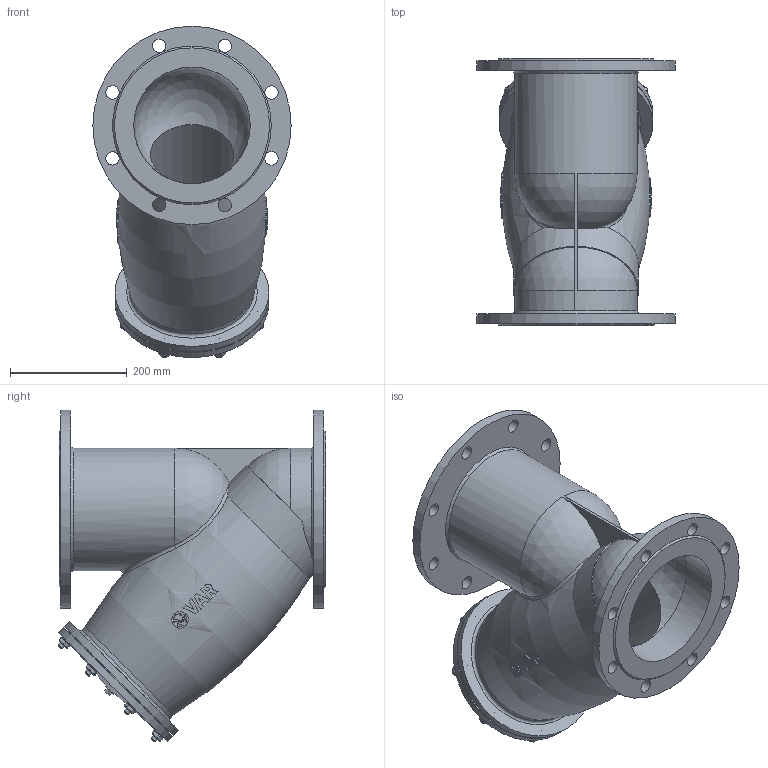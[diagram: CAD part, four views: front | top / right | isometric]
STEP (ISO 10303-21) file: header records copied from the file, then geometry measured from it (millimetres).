
FILE_DESCRIPTION(('STEP AP203'), '1');
FILE_NAME('VAR STRAINER ôèëüòð-ãðÿçåóëîâèòåëü', '', ('UNSPECIFIED'), ('UNSPECIFIED'), 'C3D Converter', 'C3D Toolkit', '');
FILE_SCHEMA(('CONFIG_CONTROL_DESIGN'));
Length unit declared in the file: millimetre
Assembly tree (29 placements, depth 2):
  (unnamed)
    (unnamed)
    (unnamed)
    (unnamed)  x8
    (unnamed)  x8
    (unnamed)  x8
    (unnamed)
    (unnamed)
    (unnamed)
Bounding box: 340 x 458.32 x 568.37 mm (x, y, z)
Volume: 6308509 mm3; surface area: 1909498.7 mm2
Topology: 30 solids, 30 shells, 552 faces, 1346 edges, 875 vertices
Faces by surface type: plane 218, extrusion 134, cylinder 93, cone 60, torus 28, sphere 13, bspline 6
Full cylindrical faces by diameter (mm): 10 x24, 11 x8, 12 x10, 18 x9, 23 x16, 28.42 x1, 200 x5, 204 x3, 210 x1, 214 x1, 218 x1, 220 x2, 264 x2, 340 x2
Entity records: 28316 total; most frequent: CARTESIAN_POINT 16519, ORIENTED_EDGE 1894, DIRECTION 1457, EDGE_CURVE 947, VERTEX_POINT 670, EDGE_LOOP 573, B_SPLINE_CURVE_WITH_KNOTS 569, AXIS2_PLACEMENT_3D 533
